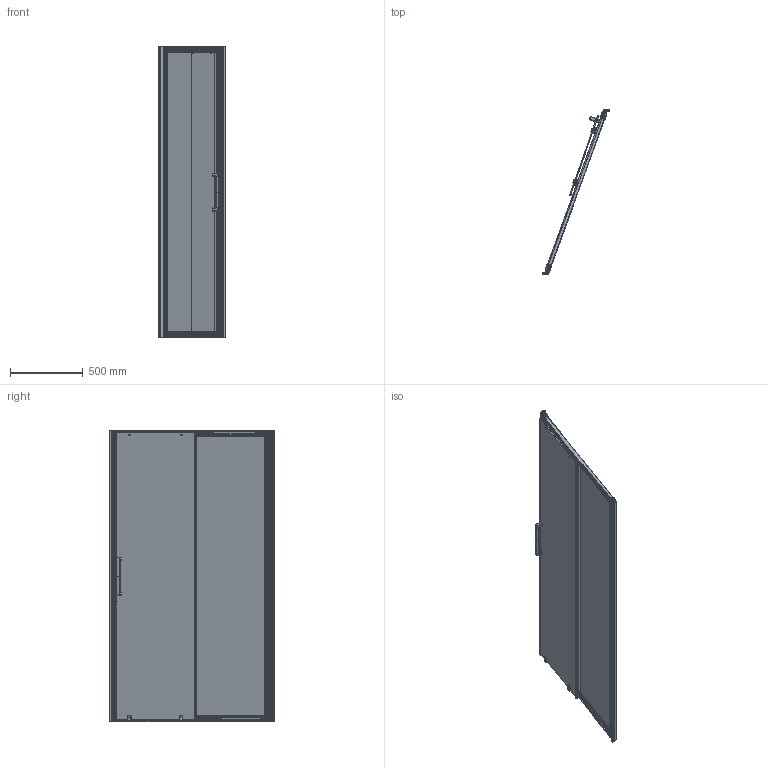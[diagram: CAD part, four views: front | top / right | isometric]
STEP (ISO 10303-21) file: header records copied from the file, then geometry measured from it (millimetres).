
FILE_DESCRIPTION(/* description */ (''),/* implementation_level */ '2;1');
FILE_NAME(/* name */ 'D:\7\KOLLE DOOR GK-662D-135-02\KOLLE DOOR GK-662D-135-02 (для рендера).stp',/* time_stamp */ '2020-07-13T19:33:19+03:00',/* author */ ('User'),/* organization */ (''),/* preprocessor_version */ 'ST-DEVELOPER v15.2',/* originating_system */ 'Autodesk Inventor 2014',/* authorisation */ '');
FILE_SCHEMA (('AUTOMOTIVE_DESIGN { 1 0 10303 214 3 1 1 }'));
Products named in the file (48): Стекло 03_2 (KUBEL DE019D); Стекло.02_1 (KUBELE DE018R); PR-18.101-01; PR-18.101; PR-18.102; PR-18.133; UP606-13; UP15.062; 15.012; STP-19.001; SCREW-304-A-(3,5 X 13)-сверло; PL-10-STP-02; Крышка \X2\04410442043E043F
043E04400430\X0\ (19); STP-19SB; UP19.616; UP606-23; PL-18.013; PL-18.017; PL-18.014; Ручка CH18-02; Ручка CH18-01; SCREW-304-A-(3,5 X 38); Ручка CH18 (2); Уголок \X2\043F043E04340434
043504400436043A0430\X0\; Упор \X2\043F043B0430044104420438
043A043E0432044B0439\X0\ (Kolle); Винт (\X2\043A04320430043404400430
0442043D0430044F\X0\ голова); Декоративный 
элемент 2 (Kolle); Заглушка \X2\04340435
043A043E04400430044204380432043D0430044F\X0\ (Kolle); Ось \X2\04370430043F0440043504410441
043E0432044B043204300435043C0430044F\X0\; Шайба  5 L \X2\0413041E04210422
\X0\ 6402-70; Пружина \X2\044104360430
04420438044F\X0\11; Пружина \X2\044104360430
04420438044F\X0\1; Гайка DIN 934 - M5 x 0,8; RL-18-DW Ролик \X2\043D04380436
043D04380439\X0\_2; Коромысло \X2\043D
04380436043D04350435\X0\; Ролик \X2\04320442043E0440043E043F043B04300441
0442043E0432044B0439\X0\ 22 мм (\X2\043E043A044004430433
043B044B0439\X0\); Подшипник d17x5 (D
5); Колесико 22 мм; RL-18-DW Ролик \X2\043D04380436
043D04380439\X0\_1; Упор \X2\043F043B0430044104420438043A043E0432044B
0439\X0\ верхний (Kolle) ...
Bounding box: 464.5 x 1127.63 x 2002.5 mm (x, y, z)
Volume: 16029222.9 mm3; surface area: 9317359 mm2
Topology: 127 solids, 127 shells, 6269 faces, 16746 edges, 10821 vertices
Faces by surface type: plane 2923, cylinder 1906, bspline 1004, cone 178, sphere 142, torus 116
Full cylindrical faces by diameter (mm): 1.2 x3, 2.5 x48, 3 x12, 3.079 x2, 3.1 x4, 3.4 x12, 3.57 x2, 4 x32, 4.134 x8, 4.509 x4, 5 x60, 5.1 x2, 5.2 x4, 6.8 x2, 7 x6, 8 x8, 8.2 x4, 8.4 x8, 8.8 x4, 10 x4, 11.5 x8, 12 x4, 16.3 x8, 17 x16
Entity records: 165768 total; most frequent: CARTESIAN_POINT 91431, ORIENTED_EDGE 15866, DIRECTION 14115, EDGE_CURVE 7933, VERTEX_POINT 5201, AXIS2_PLACEMENT_3D 4721, LINE 4673, VECTOR 4673
